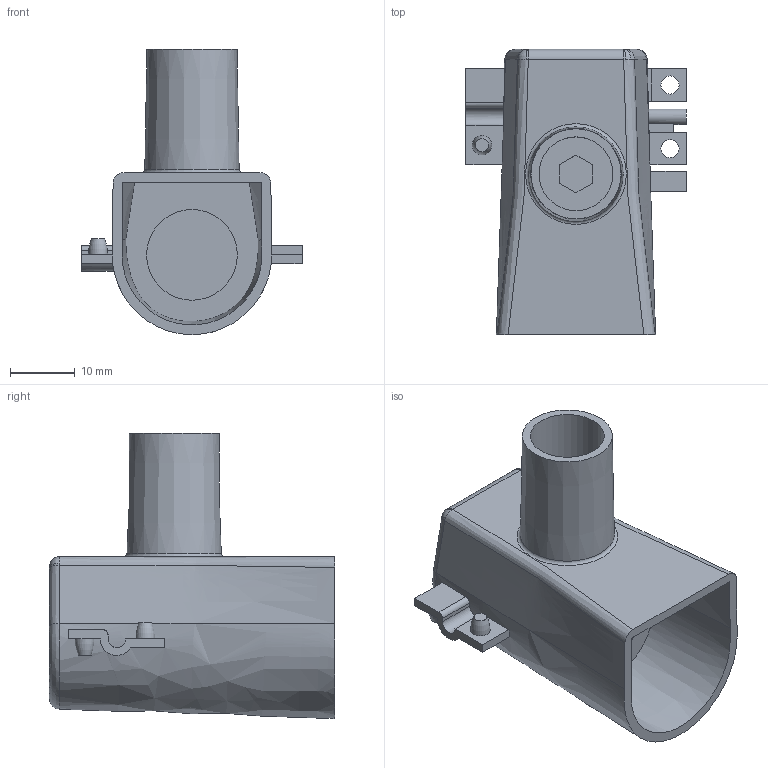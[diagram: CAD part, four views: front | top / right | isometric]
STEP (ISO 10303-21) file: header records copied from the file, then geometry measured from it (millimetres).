
FILE_DESCRIPTION(/* description */ ('Unknown'),/* implementation_level */ '2;1');
FILE_NAME(/* name */ 'MT 535',/* time_stamp */ '2021-10-08T09:18:37+02:00',/* author */ ('Unknown'),/* organization */ ('Unknown'),/* preprocessor_version */ 'ST-DEVELOPER v16.7',/* originating_system */ 'Solid Edge',/* authorisation */ 'Unknown');
FILE_SCHEMA (('AUTOMOTIVE_DESIGN {1 0 10303 214 3 1 1}'));
Length unit declared in the file: millimetre
Products named in the file (1): MT 535
Bounding box: 34 x 44 x 44 mm (x, y, z)
Volume: 12809.7 mm3; surface area: 8660.6 mm2
Topology: 1 solids, 1 shells, 80 faces, 207 edges, 138 vertices
Faces by surface type: plane 48, bspline 19, cylinder 9, torus 3, cone 1
Full cylindrical faces by diameter (mm): 2.4 x1, 2.8 x2, 11.4 x1, 14 x1
Entity records: 7975 total; most frequent: CARTESIAN_POINT 6262, ORIENTED_EDGE 386, DIRECTION 246, EDGE_CURVE 193, VERTEX_POINT 135, EDGE_LOOP 104, FACE_BOUND 104, B_SPLINE_CURVE_WITH_KNOTS 91
